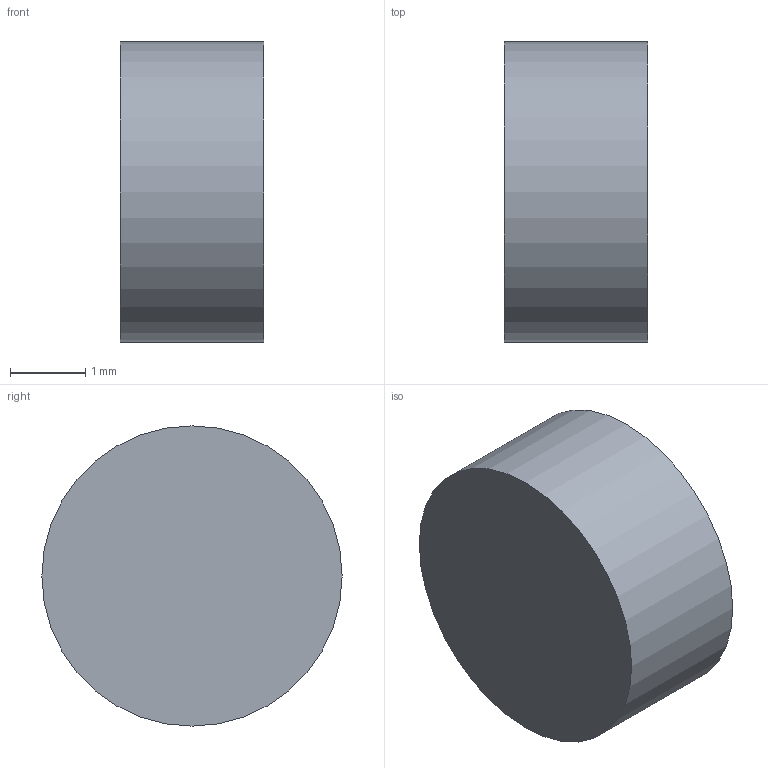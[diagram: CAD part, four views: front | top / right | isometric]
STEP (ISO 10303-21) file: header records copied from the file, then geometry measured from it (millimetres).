
FILE_DESCRIPTION(('Open CASCADE Model'),'2;1');
FILE_NAME('Open CASCADE Shape Model','2026-09-09T10:24:07',('Author'),( 'Open CASCADE'),'Open CASCADE STEP processor 7.8','Open CASCADE 7.8' ,'Unknown');
FILE_SCHEMA(('AUTOMOTIVE_DESIGN { 1 0 10303 214 1 1 1 1 }'));
Length unit declared in the file: millimetre
Products named in the file (1): Open CASCADE STEP translator 7.8 18
Bounding box: 1.91 x 4 x 4 mm (x, y, z)
Volume: 23.9 mm3; surface area: 49.1 mm2
Topology: 1 solids, 1 shells, 3 faces, 3 edges, 2 vertices
Faces by surface type: plane 2, cylinder 1
Full cylindrical faces by diameter (mm): 4 x1
Entity records: 108 total; most frequent: DIRECTION 19, CARTESIAN_POINT 15, AXIS2_PLACEMENT_3D 6, ORIENTED_EDGE 6, PCURVE 6, DEFINITIONAL_REPRESENTATION 6, LINE 5, VECTOR 5
